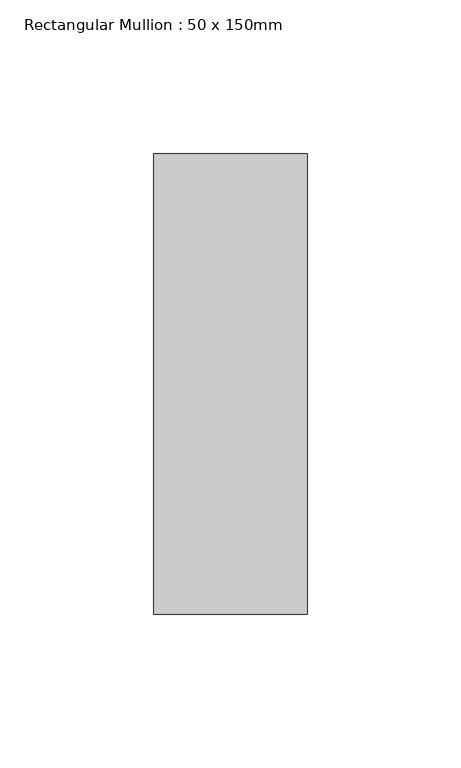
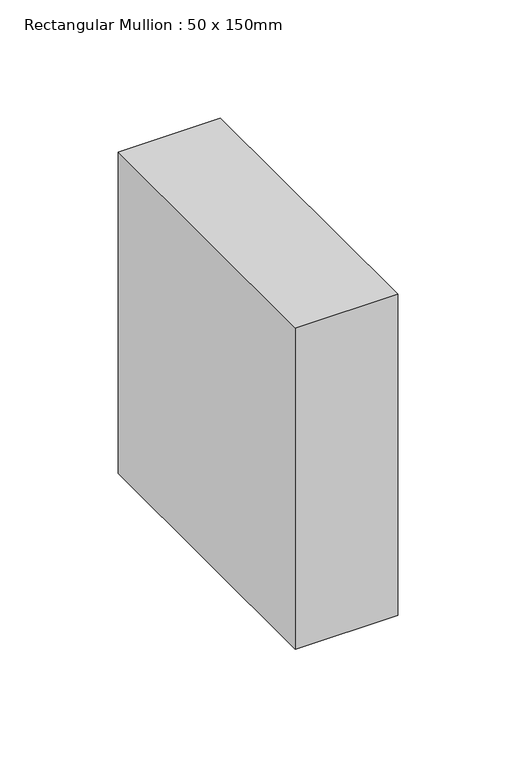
"""IFC4 building model written with IfcOpenShell, lengths in millimetres: member geometry, Rectangular Mullion : 50 x 150mm."""

from ifc_helpers import new_model, si_unit, frame, origin, place, context, project, spatial, polyline, outline, extrude, source, transform, mapped, element, save


def rectangular_mullion_50_x_150mm_c727c09e(model_context):
    return source(origin(), model_context, "Body", "SweptSolid", [
        extrude(outline(polyline([(25.0, 75.0), (25.0, -75.0), (-25.0, -75.0), (-25.0, 75.0), (25.0, 75.0)])), frame((0.0, 0.0, -166.2241464), z_axis=(0.0, 0.0, 1.0), x_axis=(1.0, 0.0, 0.0)), (0.0, 0.0, 1.0), 166.2241464),
    ])


if __name__ == "__main__":
    model = new_model("IFC4")
    model_context = context("Model", 3, world=origin())
    ifc_project = project(units=[si_unit("LENGTHUNIT", "METRE", prefix="MILLI")], contexts=[model_context])
    site = spatial("IfcSite", under=ifc_project)
    building = spatial("IfcBuilding", under=site)
    placement = place(None, origin())
    rectangular_mullion_50_x_150mm_shape = rectangular_mullion_50_x_150mm_c727c09e(model_context)
    element("IfcMember", 1, ObjectType="Rectangular Mullion : 50 x 150mm", at=placement, inside=building, context=model_context, shape_type="MappedRepresentation", body=[
        mapped(rectangular_mullion_50_x_150mm_shape, transform((0.0, 0.0, 0.0), x_axis=(1.0, 0.0, 0.0), y_axis=(0.0, 1.0, 0.0), z_axis=(0.0, 0.0, 1.0))),
    ])
    save(model, "model.ifc")
